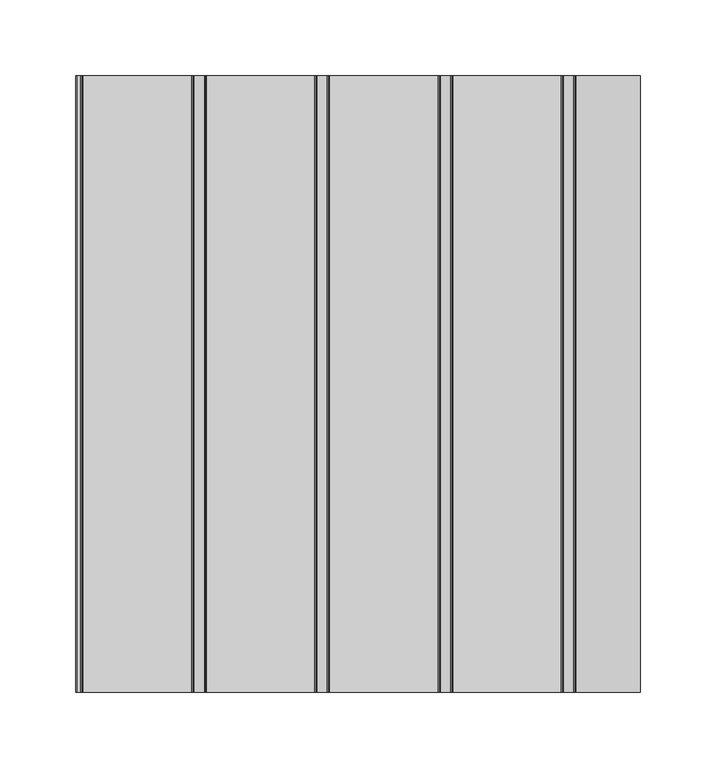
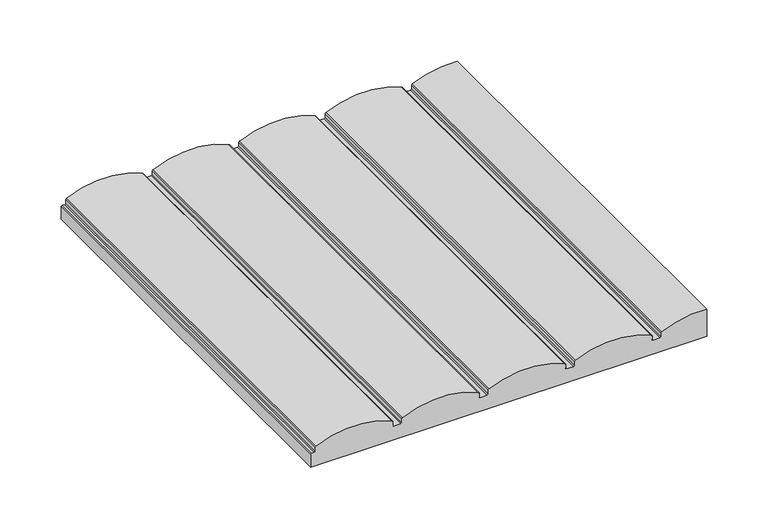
"""IFC4 building model written with IfcOpenShell, lengths in millimetres: proxy geometry, Spinneybeck_Porto 1 : Porto 1."""

from ifc_helpers import new_model, si_unit, point, frame, frame_2d, origin, place, context, project, spatial, polyline, circle_curve, trimmed, segment, composite_curve, outline, extrude, source, transform, mapped, element, save


def specialty_equipment_60d2a004(model_context):
    return source(origin(), model_context, "Body", "SweptSolid", [
        extrude(outline(composite_curve([segment(polyline([(0.0, -203.2), (0.0, 168.8625), (26.7191765, 168.8625)]), True, "CONTINUOUS"), segment(trimmed(circle_curve(frame_2d((-57.8431012, 162.56)), 84.7968178), [point((26.7191765, 168.8625))], [point((19.0971842, 126.9132217))], False, "CARTESIAN"), True, "CONTINUOUS"), segment(trimmed(circle_curve(frame_2d((17.9268461, 127.4554446)), 1.2898437), [point((19.0971842, 126.9132217))], [point((17.9268461, 126.1656008))], False, "CARTESIAN"), True, "CONTINUOUS"), segment(polyline([(17.9268461, 126.1656008), (14.4921875, 126.1656008)]), True, "CONTINUOUS"), segment(trimmed(circle_curve(frame_2d((14.4921875, 125.1734133)), 0.9921875), [point((14.4921875, 126.1656008))], [point((13.5, 125.1734133))], True, "CARTESIAN"), True, "CONTINUOUS"), segment(polyline([(13.5, 125.1734133), (13.5, 118.6665867)]), True, "CONTINUOUS"), segment(trimmed(circle_curve(frame_2d((14.4921875, 118.6665867)), 0.9921875), [point((13.5, 118.6665867))], [point((14.4921875, 117.6743992))], True, "CARTESIAN"), True, "CONTINUOUS"), segment(polyline([(14.4921875, 117.6743992), (17.9268461, 117.6743992)]), True, "CONTINUOUS"), segment(trimmed(circle_curve(frame_2d((17.9268461, 116.3845554)), 1.2898437), [point((17.9268461, 117.6743992))], [point((19.0971842, 116.9267783))], False, "CARTESIAN"), True, "CONTINUOUS"), segment(trimmed(circle_curve(frame_2d((-57.8431012, 81.28)), 84.7968178), [point((19.0971842, 116.9267783))], [point((19.0971842, 45.6332217))], False, "CARTESIAN"), True, "CONTINUOUS"), segment(trimmed(circle_curve(frame_2d((17.9268461, 46.1754446)), 1.2898437), [point((19.0971842, 45.6332217))], [point((17.9268461, 44.8856008))], False, "CARTESIAN"), True, "CONTINUOUS"), segment(polyline([(17.9268461, 44.8856008), (14.4921875, 44.8856008)]), True, "CONTINUOUS"), segment(trimmed(circle_curve(frame_2d((14.4921875, 43.8934133)), 0.9921875), [point((14.4921875, 44.8856008))], [point((13.5, 43.8934133))], True, "CARTESIAN"), True, "CONTINUOUS"), segment(polyline([(13.5, 43.8934133), (13.5, 37.3865867)]), True, "CONTINUOUS"), segment(trimmed(circle_curve(frame_2d((14.4921875, 37.3865867)), 0.9921875), [point((13.5, 37.3865867))], [point((14.4921875, 36.3943992))], True, "CARTESIAN"), True, "CONTINUOUS"), segment(polyline([(14.4921875, 36.3943992), (17.9268461, 36.3943992)]), True, "CONTINUOUS"), segment(trimmed(circle_curve(frame_2d((17.9268461, 35.1045554)), 1.2898437), [point((17.9268461, 36.3943992))], [point((19.0971842, 35.6467783))], False, "CARTESIAN"), True, "CONTINUOUS"), segment(trimmed(circle_curve(frame_2d((-57.8431012, 0.0)), 84.7968178), [point((19.0971842, 35.6467783))], [point((19.0971842, -35.6467783))], False, "CARTESIAN"), True, "CONTINUOUS"), segment(trimmed(circle_curve(frame_2d((17.9268461, -35.1045554)), 1.2898437), [point((19.0971842, -35.6467783))], [point((17.9268461, -36.3943992))], False, "CARTESIAN"), True, "CONTINUOUS"), segment(polyline([(17.9268461, -36.3943992), (14.4921875, -36.3943992)]), True, "CONTINUOUS"), segment(trimmed(circle_curve(frame_2d((14.4921875, -37.3865867)), 0.9921875), [point((14.4921875, -36.3943992))], [point((13.5, -37.3865867))], True, "CARTESIAN"), True, "CONTINUOUS"), segment(polyline([(13.5, -37.3865867), (13.5, -43.8934133)]), True, "CONTINUOUS"), segment(trimmed(circle_curve(frame_2d((14.4921875, -43.8934133)), 0.9921875), [point((13.5, -43.8934133))], [point((14.4921875, -44.8856008))], True, "CARTESIAN"), True, "CONTINUOUS"), segment(polyline([(14.4921875, -44.8856008), (17.9268461, -44.8856008)]), True, "CONTINUOUS"), segment(trimmed(circle_curve(frame_2d((17.9268461, -46.1754446)), 1.2898438), [point((17.9268461, -44.8856008))], [point((19.0971842, -45.6332217))], False, "CARTESIAN"), True, "CONTINUOUS"), segment(trimmed(circle_curve(frame_2d((-57.8431012, -81.28)), 84.7968178), [point((19.0971842, -45.6332217))], [point((19.0971842, -116.9267783))], False, "CARTESIAN"), True, "CONTINUOUS"), segment(trimmed(circle_curve(frame_2d((17.9268461, -116.3845554)), 1.2898437), [point((19.0971842, -116.9267783))], [point((17.9268461, -117.6743992))], False, "CARTESIAN"), True, "CONTINUOUS"), segment(polyline([(17.9268461, -117.6743992), (14.4921875, -117.6743992)]), True, "CONTINUOUS"), segment(trimmed(circle_curve(frame_2d((14.4921875, -118.6665867)), 0.9921875), [point((14.4921875, -117.6743992))], [point((13.5, -118.6665867))], True, "CARTESIAN"), True, "CONTINUOUS"), segment(polyline([(13.5, -118.6665867), (13.5, -125.1734133)]), True, "CONTINUOUS"), segment(trimmed(circle_curve(frame_2d((14.4921875, -125.1734133)), 0.9921875), [point((13.5, -125.1734133))], [point((14.4921875, -126.1656008))], True, "CARTESIAN"), True, "CONTINUOUS"), segment(polyline([(14.4921875, -126.1656008), (17.9268461, -126.1656008)]), True, "CONTINUOUS"), segment(trimmed(circle_curve(frame_2d((17.9268461, -127.4554446)), 1.2898437), [point((17.9268461, -126.1656008))], [point((19.0971842, -126.9132217))], False, "CARTESIAN"), True, "CONTINUOUS"), segment(trimmed(circle_curve(frame_2d((-57.8431012, -162.56)), 84.7968178), [point((19.0971842, -126.9132217))], [point((19.0971842, -198.2067783))], False, "CARTESIAN"), True, "CONTINUOUS"), segment(trimmed(circle_curve(frame_2d((17.9268461, -197.6645554)), 1.2898437), [point((19.0971842, -198.2067783))], [point((17.9268461, -198.9543992))], False, "CARTESIAN"), True, "CONTINUOUS"), segment(polyline([(17.9268461, -198.9543992), (14.4921875, -198.9543992)]), True, "CONTINUOUS"), segment(trimmed(circle_curve(frame_2d((14.4921875, -199.9465867)), 0.9921875), [point((14.4921875, -198.9543992))], [point((13.5, -199.9465867))], True, "CARTESIAN"), True, "CONTINUOUS"), segment(polyline([(13.5, -199.9465867), (13.5, -202.2078125)]), True, "CONTINUOUS"), segment(trimmed(circle_curve(frame_2d((12.5078125, -202.2078125)), 0.9921875), [point((13.5, -202.2078125))], [point((12.5078125, -203.2))], False, "CARTESIAN"), True, "CONTINUOUS"), segment(polyline([(12.5078125, -203.2), (0.0, -203.2)]), True, "CONTINUOUS")], self_intersect=False)), frame((0.0, -203.2, 0.0), z_axis=(0.0, 1.0, 0.0), x_axis=(0.0, 0.0, 1.0)), (0.0, 0.0, 1.0), 406.4),
    ])


if __name__ == "__main__":
    model = new_model("IFC4")
    model_context = context("Model", 3, world=origin())
    ifc_project = project(units=[si_unit("LENGTHUNIT", "METRE", prefix="MILLI")], contexts=[model_context])
    site = spatial("IfcSite", under=ifc_project)
    building = spatial("IfcBuilding", under=site)
    placement = place(None, origin())
    specialty_equipment_shape = specialty_equipment_60d2a004(model_context)
    element("IfcBuildingElementProxy", 1, Name="Spinneybeck_Porto 1 : Porto 1", ObjectType="Spinneybeck_Porto 1 : Porto 1", at=placement, inside=building, context=model_context, shape_type="MappedRepresentation", body=[
        mapped(specialty_equipment_shape, transform((0.0, 0.0, 0.0), x_axis=(1.0, 0.0, 0.0), y_axis=(0.0, 1.0, 0.0), z_axis=(0.0, 0.0, 1.0))),
    ])
    save(model, "model.ifc")
